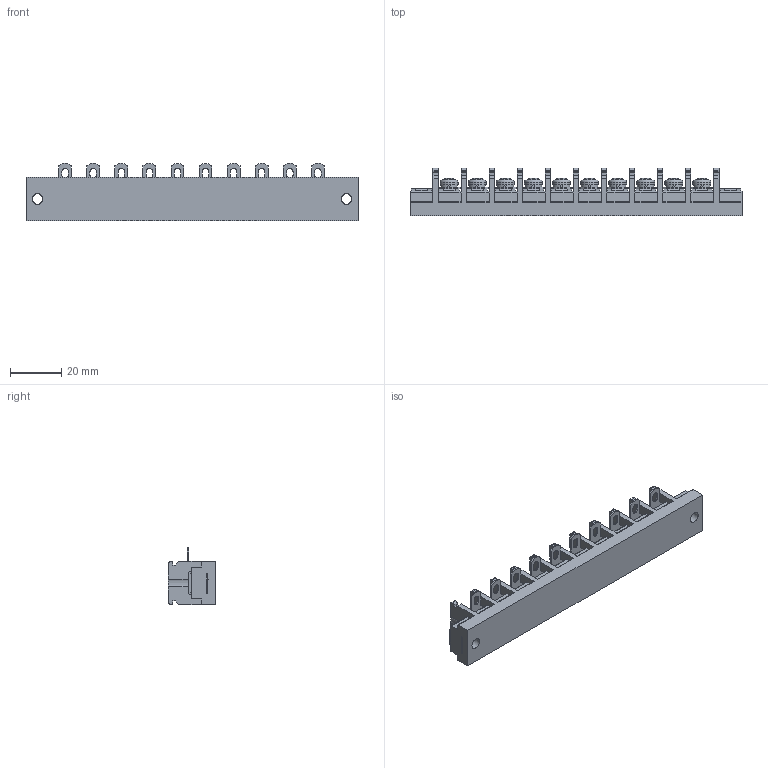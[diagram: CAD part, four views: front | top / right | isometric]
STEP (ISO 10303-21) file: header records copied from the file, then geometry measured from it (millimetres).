
FILE_DESCRIPTION(/* description */ ('Alibre Inc.'),/* implementation_level */ '2;1');
FILE_NAME(/* name */ 'export0',/* time_stamp */ '2015-10-19T19:36:46+09:00',/* author */ (''),/* organization */ (''),/* preprocessor_version */ 'ST-DEVELOPER v14',/* originating_system */ 'Alibre',/* authorisation */ '');
FILE_SCHEMA (('CONFIG_CONTROL_DESIGN'));
Length unit declared in the file: centimetre
Products named in the file (1): ID_1
Bounding box: 130 x 18.5 x 22.5 mm (x, y, z)
Volume: 24254.6 mm3; surface area: 14768.9 mm2
Topology: 1 solids, 1 shells, 1804 faces, 5036 edges, 3268 vertices
Faces by surface type: plane 1418, cylinder 212, bspline 104, cone 40, torus 20, sphere 10
Full cylindrical faces by diameter (mm): 4 x12, 4.2 x12, 6.5 x10, 7 x10
Entity records: 53657 total; most frequent: CARTESIAN_POINT 10724, ORIENTED_EDGE 9900, DIRECTION 6887, EDGE_CURVE 4950, VECTOR 3615, LINE 3615, VERTEX_POINT 3236, AXIS2_PLACEMENT_3D 2225
